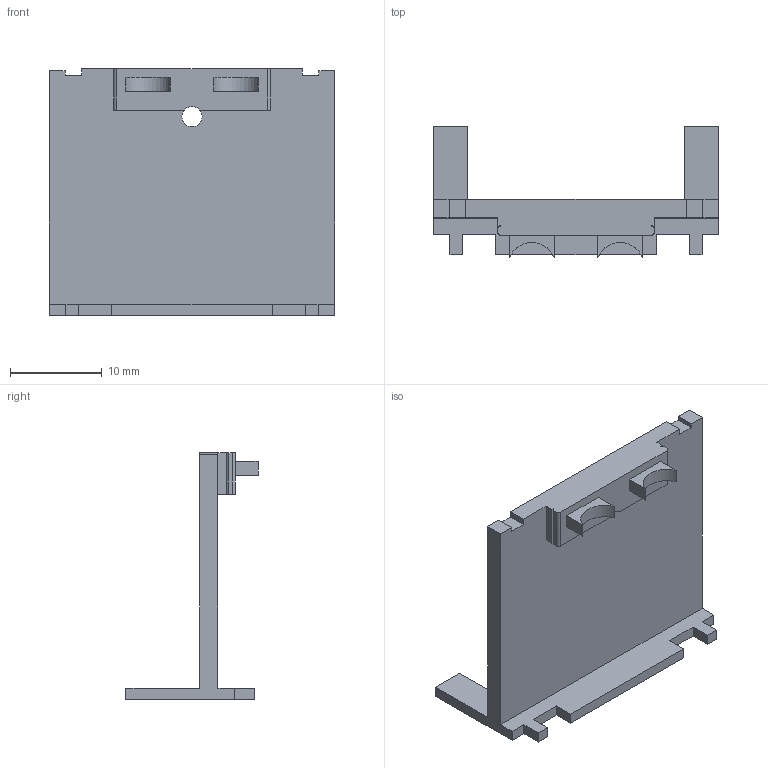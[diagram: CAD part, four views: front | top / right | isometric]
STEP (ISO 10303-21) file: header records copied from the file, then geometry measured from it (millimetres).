
FILE_DESCRIPTION(('FreeCAD Model'),'2;1');
FILE_NAME('Open CASCADE Shape Model','2026-11-13T18:42:40',('FreeCAD'),( 'FreeCAD'),'Open CASCADE STEP processor 7.8','FreeCAD','Unknown');
FILE_SCHEMA(('AUTOMOTIVE_DESIGN { 1 0 10303 214 1 1 1 1 }'));
Length unit declared in the file: millimetre
Products named in the file (1): Open CASCADE STEP translator 7.8 13
Bounding box: 31 x 14.36 x 26.8 mm (x, y, z)
Volume: 2001.3 mm3; surface area: 2402.5 mm2
Topology: 1 solids, 1 shells, 58 faces, 165 edges, 110 vertices
Faces by surface type: plane 51, cylinder 7
Full cylindrical faces by diameter (mm): 2.2 x1
Entity records: 1879 total; most frequent: CARTESIAN_POINT 334, ORIENTED_EDGE 330, DIRECTION 299, EDGE_CURVE 165, LINE 149, VECTOR 149, VERTEX_POINT 110, AXIS2_PLACEMENT_3D 75
